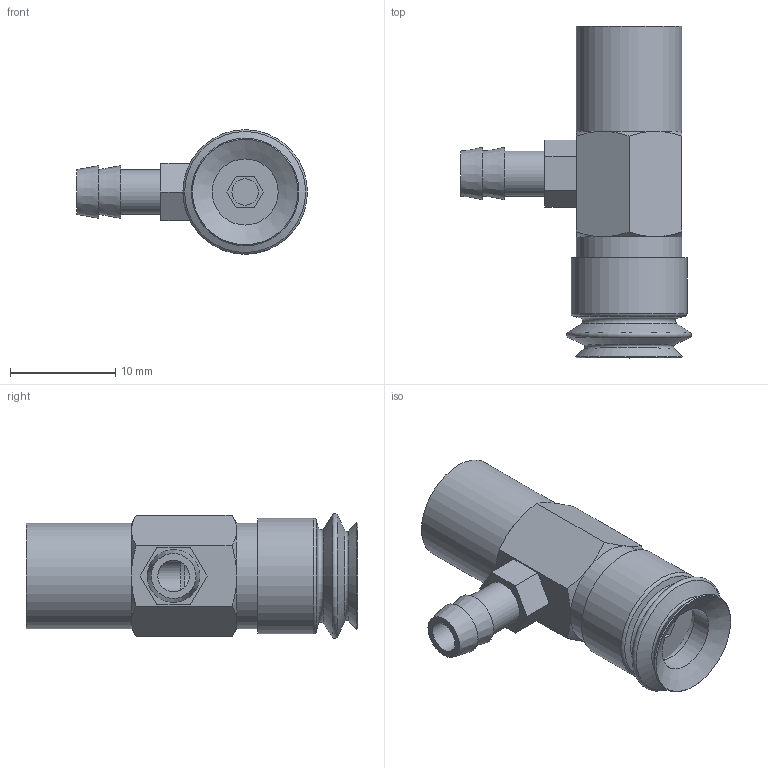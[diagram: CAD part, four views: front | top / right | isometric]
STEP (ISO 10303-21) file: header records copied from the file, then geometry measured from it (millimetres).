
FILE_DESCRIPTION(('STEP AP203'),'1');
FILE_NAME('.stp','2025-04-23T02:35:48',(' '),(' '),'Spatial InterOp 3D',' ',' ');
FILE_SCHEMA(('CONFIG_CONTROL_DESIGN'));
Length unit declared in the file: millimetre
Products named in the file (4): BBPJYK-10-※; Adapter-10-PJ; PJYK-10; BPJG-10-※
Assembly tree (3 placements, depth 2):
  BBPJYK-10-※
    Adapter-10-PJ
    PJYK-10
    BPJG-10-※
Bounding box: 21.91 x 31.5 x 11.83 mm (x, y, z)
Volume: 2408.2 mm3; surface area: 2478 mm2
Topology: 3 solids, 3 shells, 85 faces, 192 edges, 120 vertices
Faces by surface type: plane 35, cone 28, cylinder 15, torus 7
Full cylindrical faces by diameter (mm): 2.5 x1, 3 x2, 3.242 x1, 4.134 x1, 4.26 x1, 4.6 x1, 5 x1, 6.266 x1, 7.8 x1, 8 x1, 10 x2, 11 x1
Entity records: 2400 total; most frequent: CARTESIAN_POINT 511, DIRECTION 354, ORIENTED_EDGE 296, AXIS2_PLACEMENT_3D 152, EDGE_CURVE 148, EDGE_LOOP 130, VERTEX_POINT 109, FACE_OUTER_BOUND 105
